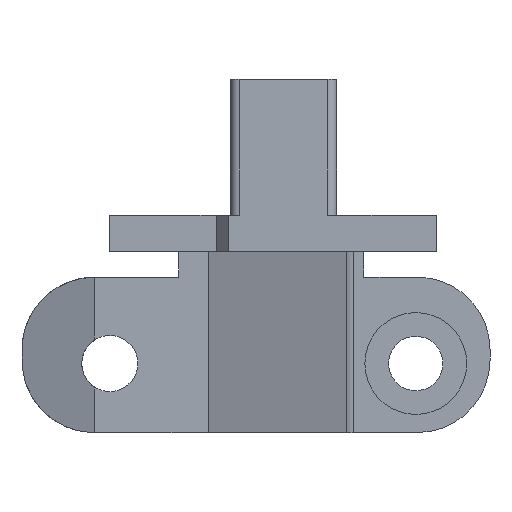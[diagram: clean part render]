
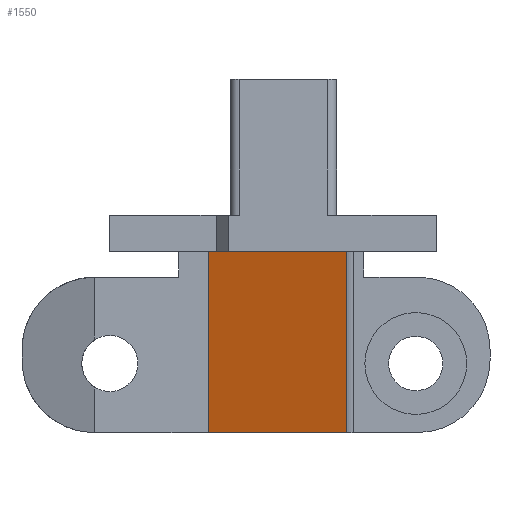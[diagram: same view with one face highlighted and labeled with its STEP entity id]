
A CAD part, left-side view. The second image highlights one B-rep face of the part: STEP entity #1550.
In plain terms, the highlighted planar face has unit normal (-0.934, 0.358, 0).
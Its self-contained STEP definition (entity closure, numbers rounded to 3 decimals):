
#53 = LINE ( 'NONE', #402, #2078 ) ;
#138 = DIRECTION ( 'NONE',  ( -0.358, -0.934, 0. ) ) ;
#284 = LINE ( 'NONE', #1987, #4019 ) ;
#402 = CARTESIAN_POINT ( 'NONE',  ( 191.2, 116.022, 8.1 ) ) ;
#405 = EDGE_CURVE ( 'NONE', #1340, #1488, #2259, .T. ) ;
#468 = PLANE ( 'NONE',  #3830 ) ;
#490 = DIRECTION ( 'NONE',  ( -0.358, -0.934, 0. ) ) ;
#783 = FACE_OUTER_BOUND ( 'NONE', #3477, .T. ) ;
#820 = EDGE_CURVE ( 'NONE', #3570, #2971, #53, .T. ) ;
#1094 = CARTESIAN_POINT ( 'NONE',  ( 191.2, 116.022, 27.6 ) ) ;
#1136 = CARTESIAN_POINT ( 'NONE',  ( 185.333, 100.732, 8.1 ) ) ;
#1179 = EDGE_CURVE ( 'NONE', #1340, #3570, #3642, .T. ) ;
#1340 = VERTEX_POINT ( 'NONE', #2841 ) ;
#1431 = ORIENTED_EDGE ( 'NONE', *, *, #405, .F. ) ;
#1488 = VERTEX_POINT ( 'NONE', #1947 ) ;
#1514 = EDGE_CURVE ( 'NONE', #2971, #1488, #284, .T. ) ;
#1550 = ADVANCED_FACE ( 'NONE', ( #783 ), #468, .T. ) ;
#1769 = VECTOR ( 'NONE', #490, 1000. ) ;
#1947 = CARTESIAN_POINT ( 'NONE',  ( 185.333, 100.732, 28.1 ) ) ;
#1987 = CARTESIAN_POINT ( 'NONE',  ( 185.333, 100.732, 27.6 ) ) ;
#2075 = VECTOR ( 'NONE', #3686, 1000. ) ;
#2078 = VECTOR ( 'NONE', #3510, 1000. ) ;
#2254 = ORIENTED_EDGE ( 'NONE', *, *, #1179, .T. ) ;
#2259 = LINE ( 'NONE', #2338, #1769 ) ;
#2338 = CARTESIAN_POINT ( 'NONE',  ( 191.2, 116.022, 28.1 ) ) ;
#2739 = CARTESIAN_POINT ( 'NONE',  ( 191.2, 116.022, 27.6 ) ) ;
#2841 = CARTESIAN_POINT ( 'NONE',  ( 191.2, 116.022, 28.1 ) ) ;
#2870 = ORIENTED_EDGE ( 'NONE', *, *, #1514, .T. ) ;
#2932 = ORIENTED_EDGE ( 'NONE', *, *, #820, .T. ) ;
#2971 = VERTEX_POINT ( 'NONE', #1136 ) ;
#3243 = DIRECTION ( 'NONE',  ( 0., 0., 1. ) ) ;
#3255 = DIRECTION ( 'NONE',  ( -0.934, 0.358, 0. ) ) ;
#3477 = EDGE_LOOP ( 'NONE', ( #2932, #2870, #1431, #2254 ) ) ;
#3510 = DIRECTION ( 'NONE',  ( -0.358, -0.934, 0. ) ) ;
#3570 = VERTEX_POINT ( 'NONE', #4016 ) ;
#3642 = LINE ( 'NONE', #2739, #2075 ) ;
#3686 = DIRECTION ( 'NONE',  ( 0., 0., -1. ) ) ;
#3830 = AXIS2_PLACEMENT_3D ( 'NONE', #1094, #3255, #138 ) ;
#4016 = CARTESIAN_POINT ( 'NONE',  ( 191.2, 116.022, 8.1 ) ) ;
#4019 = VECTOR ( 'NONE', #3243, 1000. ) ;
